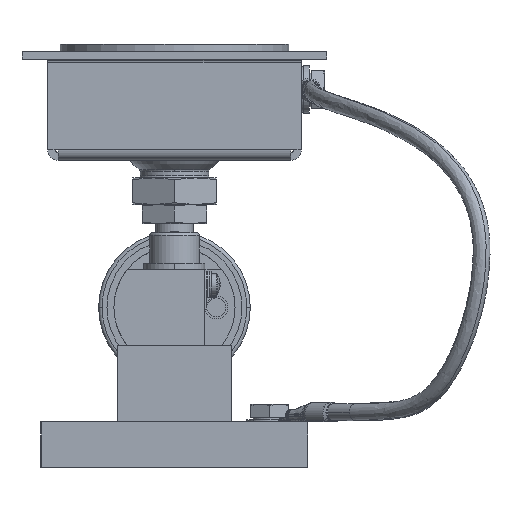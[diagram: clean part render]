
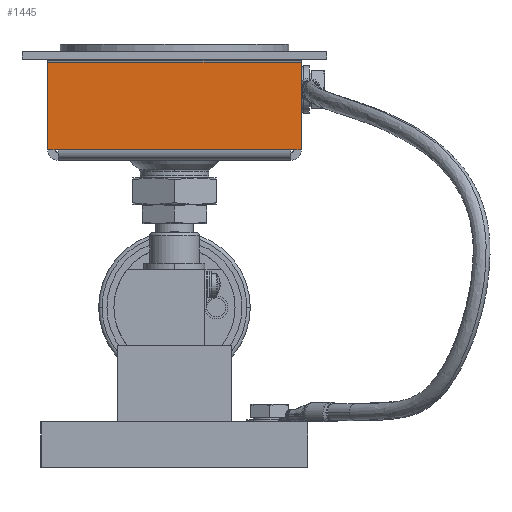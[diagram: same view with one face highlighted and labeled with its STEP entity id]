
A CAD part, front view. The second image highlights one B-rep face of the part: STEP entity #1445.
In plain terms, the highlighted planar face has unit normal (0, -1, 0) as drawn and (-1, 0, 0) by its records, which use the part's own axes.
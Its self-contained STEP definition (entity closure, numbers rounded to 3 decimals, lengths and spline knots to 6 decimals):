
#1445=ADVANCED_FACE('293:1227',(#2731),#2732,.T.);
#2731=FACE_OUTER_BOUND('',#13246,.T.);
#2732=PLANE('',#13247);
#13246=EDGE_LOOP('',(#16793,#16794,#16795,#16796,#16797,#16798));
#13247=AXIS2_PLACEMENT_3D('',#16799,#16800,#16801);
#16793=ORIENTED_EDGE('',*,*,#22441,.F.);
#16794=ORIENTED_EDGE('',*,*,#22439,.T.);
#16795=ORIENTED_EDGE('',*,*,#22438,.T.);
#16796=ORIENTED_EDGE('',*,*,#22432,.F.);
#16797=ORIENTED_EDGE('',*,*,#22427,.F.);
#16798=ORIENTED_EDGE('',*,*,#22424,.F.);
#16799=CARTESIAN_POINT('',(-0.03325,0.0,0.0));
#16800=DIRECTION('',(-1.0,0.0,0.0));
#16801=DIRECTION('',(0.0,-1.0,0.0));
#22424=EDGE_CURVE('325:225',#25057,#25068,#25069,.F.);
#22427=EDGE_CURVE('293:1250',#25068,#25073,#25074,.F.);
#22432=EDGE_CURVE('308:12768',#25073,#25080,#25081,.T.);
#22438=EDGE_CURVE('293:1240',#25083,#25080,#25090,.T.);
#22439=EDGE_CURVE('324:463',#25065,#25083,#25091,.T.);
#22441=EDGE_CURVE('325:228',#25065,#25057,#25093,.F.);
#25057=VERTEX_POINT('',#30468);
#25065=VERTEX_POINT('',#30479);
#25068=VERTEX_POINT('',#30483);
#25069=LINE('',#30484,#30485);
#25073=VERTEX_POINT('',#30491);
#25074=LINE('',#30492,#30493);
#25080=VERTEX_POINT('',#30501);
#25081=LINE('',#30502,#30503);
#25083=VERTEX_POINT('',#30505);
#25090=LINE('',#30515,#30516);
#25091=LINE('',#30517,#30518);
#25093=LINE('',#30521,#30522);
#30468=CARTESIAN_POINT('',(-0.03325,0.0305,0.00275));
#30479=CARTESIAN_POINT('',(-0.03325,-0.0305,0.00275));
#30483=CARTESIAN_POINT('',(-0.03325,0.03325,0.00275));
#30484=CARTESIAN_POINT('',(-0.03325,0.015938,0.00275));
#30485=VECTOR('',#34926,1.0);
#30491=CARTESIAN_POINT('',(-0.03325,0.03325,0.02575));
#30492=CARTESIAN_POINT('',(-0.03325,0.03325,0.0));
#30493=VECTOR('',#34929,1.0);
#30501=CARTESIAN_POINT('',(-0.03325,-0.03325,0.02575));
#30502=CARTESIAN_POINT('',(-0.03325,0.0,0.02575));
#30503=VECTOR('',#34938,1.0);
#30505=CARTESIAN_POINT('',(-0.03325,-0.03325,0.00275));
#30515=CARTESIAN_POINT('',(-0.03325,-0.03325,0.0));
#30516=VECTOR('',#34948,1.0);
#30517=CARTESIAN_POINT('',(-0.03325,-0.015938,0.00275));
#30518=VECTOR('',#34949,1.0);
#30521=CARTESIAN_POINT('',(-0.03325,0.0,0.00275));
#30522=VECTOR('',#34951,1.0);
#34926=DIRECTION('',(-0.0,-1.0,-0.0));
#34929=DIRECTION('',(-0.0,0.0,-1.0));
#34938=DIRECTION('',(-0.0,-1.0,-0.0));
#34948=DIRECTION('',(0.0,0.0,1.0));
#34949=DIRECTION('',(-0.0,-1.0,-0.0));
#34951=DIRECTION('',(0.0,-1.0,0.0));
